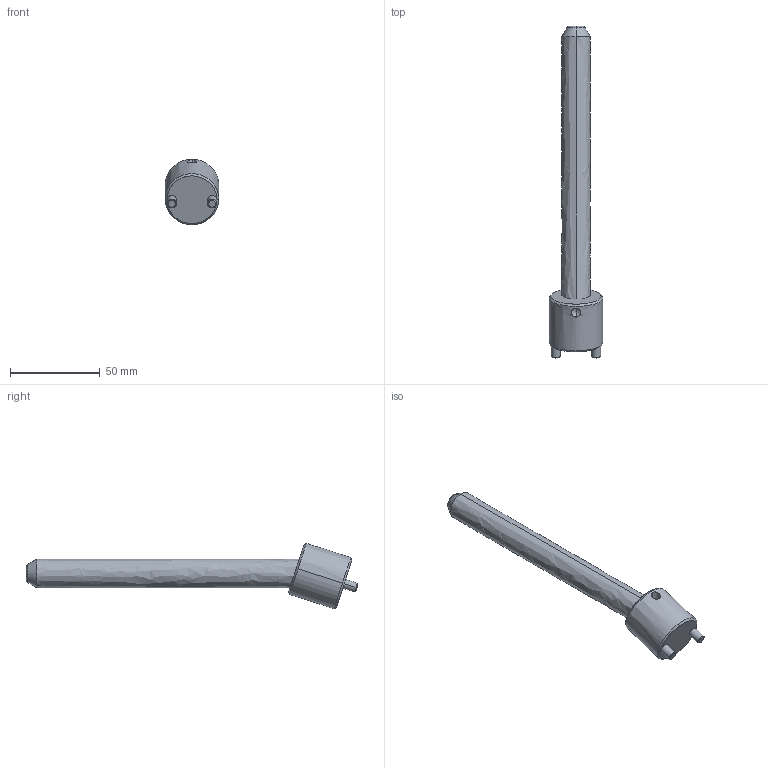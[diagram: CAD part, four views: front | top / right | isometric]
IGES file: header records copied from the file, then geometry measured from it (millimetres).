
Start section: START RECORD GO HERE.
Global section: file name: CI1816150.igs; native system: DASSAULT SYSTEMES CATIA V5 R20 - www.3ds.com; preprocessor: CATIA Version 5 Release 20 ; author: r.borello; organization: CFTORINO; date: 20190624.094351; units: millimetre
Bounding box: 30 x 185.31 x 36.57 mm (x, y, z)
Surface area: 14467.7 mm2 (no closed solid volume)
Topology: 0 solids, 0 shells, 39 faces, 162 edges, 160 vertices
Faces by surface type: revolution 32, plane 7
